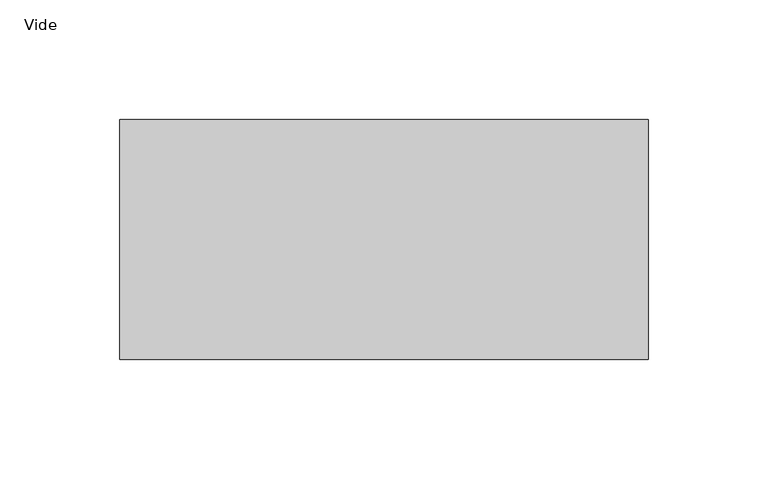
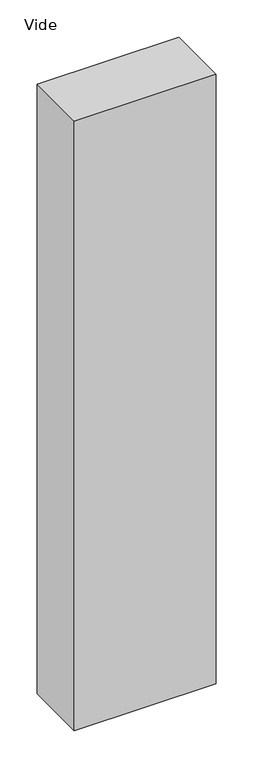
"""IFC4 building model written with IfcOpenShell, lengths in millimetres: plate geometry, Panneau système vide : Vide."""

from ifc_helpers import new_model, si_unit, origin, origin_with_axes, place, context, project, spatial, polyline, outline, extrude, source, transform, mapped, element, save


def vide_d62fe9b1(model_context):
    return source(origin(), model_context, "Body", "SweptSolid", [
        extrude(outline(polyline([(110.0000002, 50.0), (-110.0000002, 50.0), (-110.0000002, 150.0), (110.0000002, 150.0), (110.0000002, 50.0)])), origin_with_axes(), (0.0, 0.0, 1.0), 1000.0),
    ])


if __name__ == "__main__":
    model = new_model("IFC4")
    model_context = context("Model", 3, world=origin())
    ifc_project = project(units=[si_unit("LENGTHUNIT", "METRE", prefix="MILLI")], contexts=[model_context])
    site = spatial("IfcSite", under=ifc_project)
    building = spatial("IfcBuilding", under=site)
    placement = place(None, origin())
    vide_shape = vide_d62fe9b1(model_context)
    element("IfcPlate", 1, ObjectType="Panneau système vide : Vide", at=placement, inside=building, context=model_context, shape_type="MappedRepresentation", body=[
        mapped(vide_shape, transform((0.0, 0.0, 0.0), x_axis=(1.0, 0.0, 0.0), y_axis=(0.0, 1.0, 0.0), z_axis=(0.0, 0.0, 1.0))),
    ])
    save(model, "model.ifc")
